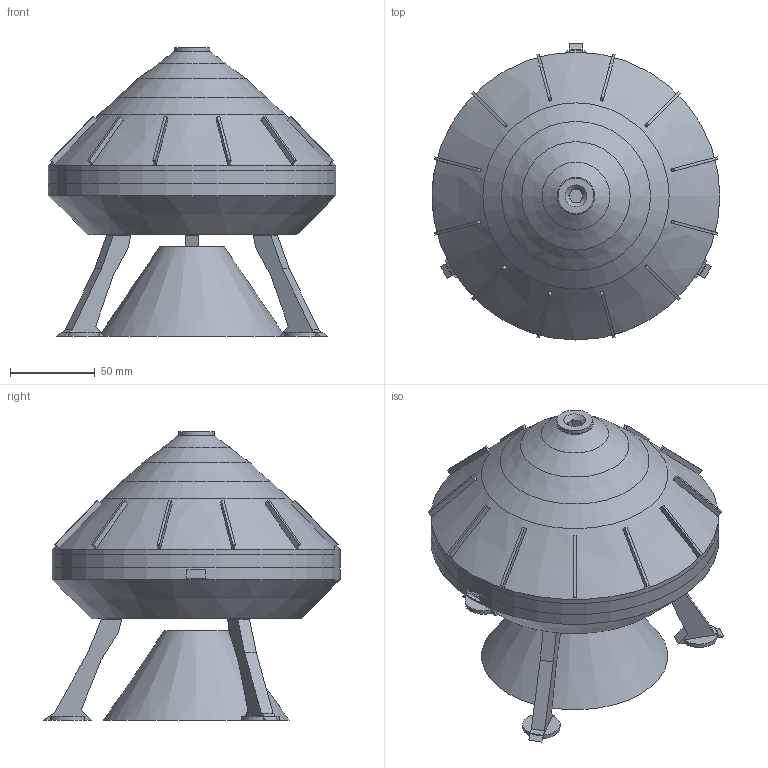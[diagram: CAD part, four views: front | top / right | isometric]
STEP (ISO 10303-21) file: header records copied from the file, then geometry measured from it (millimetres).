
FILE_DESCRIPTION(('Open CASCADE Model'),'2;1');
FILE_NAME('puntschotel','2026-10-20T19:46:50',('Author'),('Open CASCADE' ),'Open CASCADE STEP processor 8.0','build123d','Unknown');
FILE_SCHEMA(('AUTOMOTIVE_DESIGN { 1 0 10303 214 1 1 1 1 }'));
Length unit declared in the file: millimetre
Products named in the file (11): puntschotel; COMPOUND
Assembly tree (10 placements, depth 2):
  puntschotel
    COMPOUND
    COMPOUND
    COMPOUND
    COMPOUND
    COMPOUND
    COMPOUND
    COMPOUND
    COMPOUND
    COMPOUND
    COMPOUND
Bounding box: 170 x 175 x 170.5 mm (x, y, z)
Volume: 328174.5 mm3; surface area: 270677.7 mm2
Topology: 12 solids, 12 shells, 1648 faces, 4740 edges, 3154 vertices
Faces by surface type: plane 1564, cylinder 65, cone 19
Full cylindrical faces by diameter (mm): 1.7 x2, 2.6 x2, 3.2 x2, 4.4 x1, 6.4 x4, 7.9 x3, 8.3 x3, 9.2 x1, 13 x3, 14 x1, 16 x1, 16.3 x1, 21 x1, 22 x1, 29.9 x1, 30 x1, 34 x1, 34.8 x1, 35.2 x1, 36 x1, 42.1 x1, 60 x2, 64 x1, 152 x1, 156 x1, 162 x2, 165.1 x2, 165.2 x3, 170 x3
Entity records: 113686 total; most frequent: CARTESIAN_POINT 22735, DIRECTION 15346, LINE 11381, VECTOR 11381, ORIENTED_EDGE 9480, PCURVE 9480, DEFINITIONAL_REPRESENTATION 9480, EDGE_CURVE 4740
